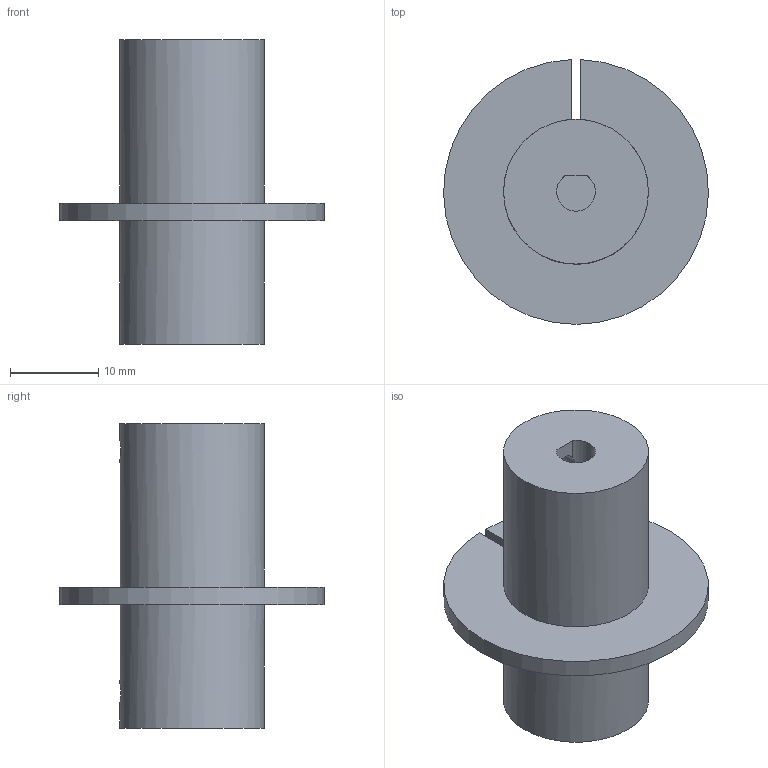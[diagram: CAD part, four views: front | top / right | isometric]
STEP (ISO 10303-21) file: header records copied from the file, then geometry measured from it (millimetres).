
FILE_DESCRIPTION(/* description */ (''),/* implementation_level */ '2;1');
FILE_NAME(/* name */ 'V:\Flow\Inventor\Kontinuierliche Spritzenpumpe\Kupplung Motor Ventil.stp',/* time_stamp */ '2019-12-20T10:24:35+01:00',/* author */ ('JN'),/* organization */ (''),/* preprocessor_version */ 'ST-DEVELOPER v17',/* originating_system */ 'Autodesk Inventor 2018',/* authorisation */ '');
FILE_SCHEMA (('AUTOMOTIVE_DESIGN { 1 0 10303 214 3 1 1 }'));
Length unit declared in the file: millimetre
Products named in the file (1): Kupplung Motor Ventil
Bounding box: 30 x 29.99 x 34.5 mm (x, y, z)
Volume: 7575.9 mm3; surface area: 3803.7 mm2
Topology: 1 solids, 1 shells, 17 faces, 44 edges, 30 vertices
Faces by surface type: plane 11, cylinder 6
Full cylindrical faces by diameter (mm): 2.8 x2, 16.4 x1
Entity records: 650 total; most frequent: CARTESIAN_POINT 180, ORIENTED_EDGE 88, DIRECTION 88, EDGE_CURVE 44, AXIS2_PLACEMENT_3D 33, VERTEX_POINT 30, EDGE_LOOP 22, LINE 22
